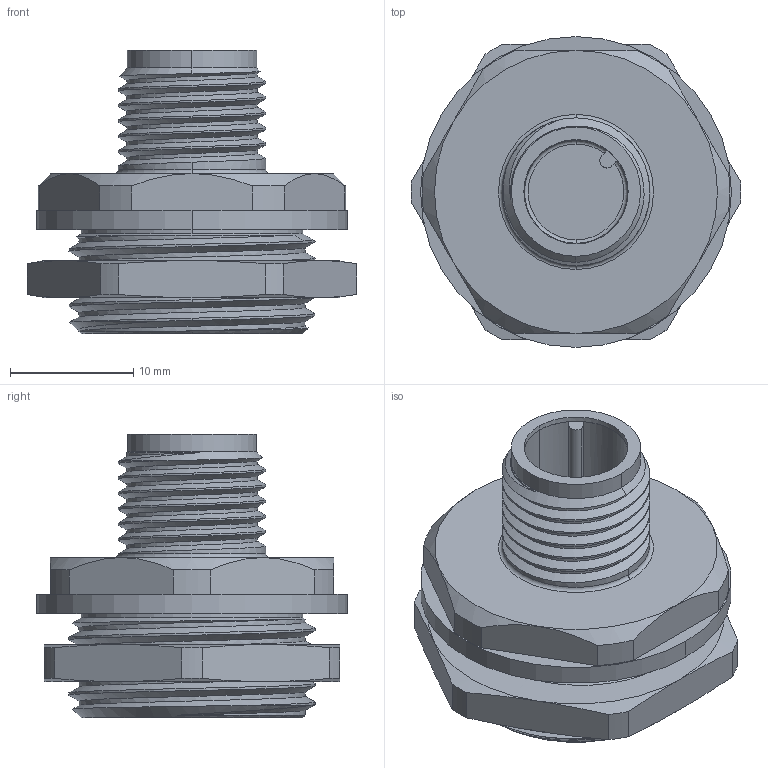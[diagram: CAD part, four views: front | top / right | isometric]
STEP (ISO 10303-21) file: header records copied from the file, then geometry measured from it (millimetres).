
FILE_DESCRIPTION (( 'STEP AP203' ), '1' );
FILE_NAME ('EFSxT-A.step', '2021-04-14T15:36:21', ( '' ), ( '' ), 'SwSTEP 2.0', 'SolidWorks 2019', '' );
FILE_SCHEMA (( 'CONFIG_CONTROL_DESIGN' ));
Length unit declared in the file: millimetre
Products named in the file (1): EFSxT-A
Bounding box: 26.79 x 25.25 x 23 mm (x, y, z)
Volume: 5621.8 mm3; surface area: 3675.7 mm2
Topology: 1 solids, 2 shells, 132 faces, 324 edges, 203 vertices
Faces by surface type: cylinder 53, cone 35, plane 28, bspline 9, torus 7
Entity records: 7686 total; most frequent: CARTESIAN_POINT 4730, ORIENTED_EDGE 648, DIRECTION 564, EDGE_CURVE 324, AXIS2_PLACEMENT_3D 237, VERTEX_POINT 203, EDGE_LOOP 141, ADVANCED_FACE 132
